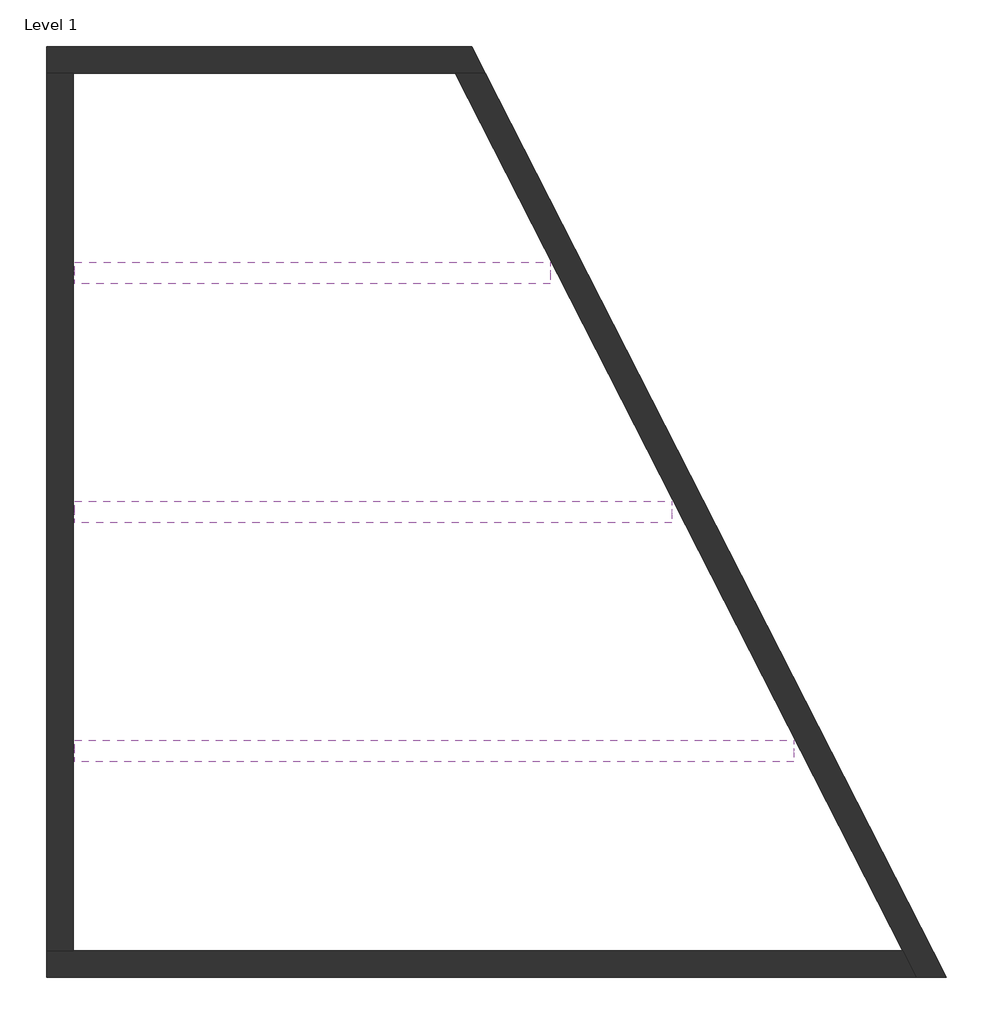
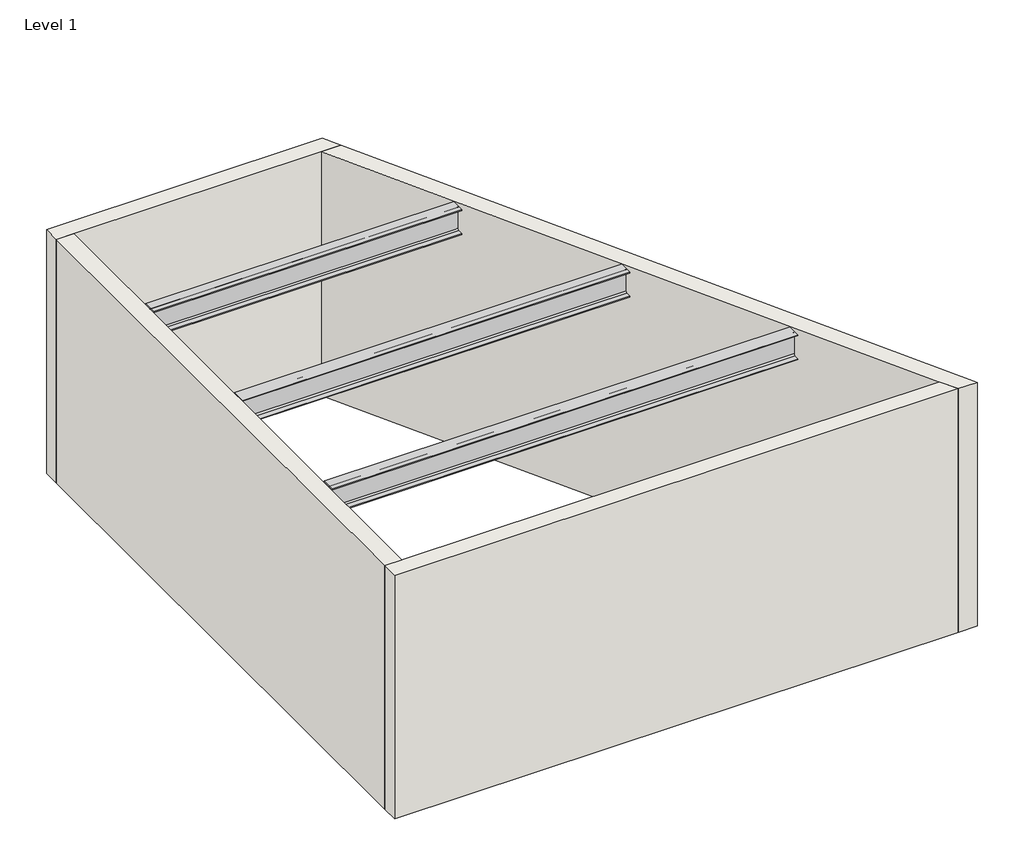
# One storey: 4 walls, 3 beams.
"""IFC4 building model written with IfcOpenShell, lengths in millimetres."""

from ifc_helpers import new_model, si_unit, origin, origin_with_axes, place, context, project, spatial, polyline, outline, extrude, faceted_brep, transform, mapped, element, save
from components import w_wide_flange_w12x26_2d7df239, w_wide_flange_w12x26_de92a1e1, w_wide_flange_w12x26_c037be30

model = new_model("IFC4")

# Units and contexts
model_context = context("Model", 3, world=origin())
ifc_project = project(units=[si_unit("LENGTHUNIT", "METRE", prefix="MILLI")], contexts=[model_context])

# Site, building, storey
site = spatial("IfcSite", under=ifc_project)
building = spatial("IfcBuilding", under=site)
storey = spatial("IfcBuildingStorey", under=building, Name="Level 1", Elevation=0.0)

# Beams
placement = place(None, origin())
w_wide_flange_w12x26_shape = w_wide_flange_w12x26_2d7df239(model_context)
element("IfcBeam", 1, ObjectType="W-Wide Flange : W12X26", at=placement, inside=storey, context=model_context, shape_type="MappedRepresentation", body=[
    mapped(w_wide_flange_w12x26_shape, transform((-12049.052399, 9760.161167, 2892.821875), x_axis=(-1.0, 0.0, 0.0), y_axis=(0.0, -1.0, 0.0), z_axis=(0.0, 0.0, 1.0))),
])
w_wide_flange_w12x26_2_shape = w_wide_flange_w12x26_de92a1e1(model_context)
element("IfcBeam", 2, ObjectType="W-Wide Flange : W12X26", at=placement, inside=storey, context=model_context, shape_type="MappedRepresentation", body=[
    mapped(w_wide_flange_w12x26_2_shape, transform((-12514.96247, 11588.961167, 2892.821875), x_axis=(-1.0, 0.0, 0.0), y_axis=(0.0, -1.0, 0.0), z_axis=(0.0, 0.0, 1.0))),
])
w_wide_flange_w12x26_3_shape = w_wide_flange_w12x26_c037be30(model_context)
element("IfcBeam", 3, ObjectType="W-Wide Flange : W12X26", at=placement, inside=storey, context=model_context, shape_type="MappedRepresentation", body=[
    mapped(w_wide_flange_w12x26_3_shape, transform((-12980.872541, 13417.761167, 2892.821875), x_axis=(-1.0, 0.0, 0.0), y_axis=(0.0, -1.0, 0.0), z_axis=(0.0, 0.0, 1.0))),
])

# Walls
element("IfcWall", 4, ObjectType="Generic - 8\"", at=placement, inside=storey, context=model_context, shape_type="Brep", body=[
    faceted_brep([(-15044.8265358, 14949.9907213, 0.0), (-14841.6265358, 14949.9907213, 0.0), (-11913.2568444, 14949.9907213, 0.0), (-11685.2001529, 14949.9907213, 0.0), (-11685.2001529, 14949.9907213, 3048.0), (-11913.2568444, 14949.9907213, 3048.0), (-14841.6265358, 14949.9907213, 3048.0), (-15044.8265358, 14949.9907213, 3048.0), (-15044.8265358, 15153.1907213, 0.0), (-15044.8265358, 15153.1907213, 3048.0), (-11788.7357242, 15153.1907213, 3048.0), (-11788.7357242, 15153.1907213, 0.0)], [[[0, 1, 2, 3, 4, 5, 6, 7]], [[8, 9, 10, 11]], [[3, 2, 1, 0, 8, 11]], [[7, 6, 5, 4, 10, 9]], [[4, 3, 11, 10]], [[0, 7, 9, 8]]]),
])
element("IfcWall", 5, ObjectType="Generic - 8\"", at=placement, inside=storey, context=model_context, shape_type="Brep", body=[
    faceted_brep([(-11913.2568444, 14949.9907213, 0.0), (-8488.1966555, 8227.9316127, 0.0), (-8384.6610842, 8024.7316127, 0.0), (-8384.6610842, 8024.7316127, 3048.0), (-8488.1966555, 8227.9316127, 3048.0), (-11913.2568444, 14949.9907213, 3048.0), (-11685.2001529, 14949.9907213, 0.0), (-11685.2001529, 14949.9907213, 3048.0), (-8156.6043927, 8024.7316127, 3048.0), (-8156.6043927, 8024.7316127, 0.0)], [[[0, 1, 2, 3, 4, 5]], [[6, 7, 8, 9]], [[2, 1, 0, 6, 9]], [[5, 4, 3, 8, 7]], [[0, 5, 7, 6]], [[3, 2, 9, 8]]]),
])
element("IfcWall", 6, ObjectType="Generic - 8\"", at=placement, inside=storey, context=model_context, shape_type="Brep", body=[
    faceted_brep([(-8488.1966555, 8227.9316127, 0.0), (-14841.6265358, 8227.9316127, 0.0), (-15044.8265358, 8227.9316127, 0.0), (-15044.8265358, 8227.9316127, 3048.0), (-14841.6265358, 8227.9316127, 3048.0), (-8488.1966555, 8227.9316127, 3048.0), (-8384.6610842, 8024.7316127, 0.0), (-8384.6610842, 8024.7316127, 3048.0), (-15044.8265358, 8024.7316127, 3048.0), (-15044.8265358, 8024.7316127, 0.0)], [[[0, 1, 2, 3, 4, 5]], [[6, 7, 8, 9]], [[2, 1, 0, 6, 9]], [[5, 4, 3, 8, 7]], [[0, 5, 7, 6]], [[3, 2, 9, 8]]]),
])
element("IfcWall", 7, ObjectType="Generic - 8\"", at=placement, inside=storey, context=model_context, shape_type="SweptSolid", body=[
    extrude(outline(polyline([(-14841.6265358, 14949.9907213), (-14841.6265358, 8227.9316127), (-15044.8265358, 8227.9316127), (-15044.8265358, 14949.9907213), (-14841.6265358, 14949.9907213)])), origin_with_axes(), (0.0, 0.0, 1.0), 3048.0),
])

save(model, "model.ifc")
